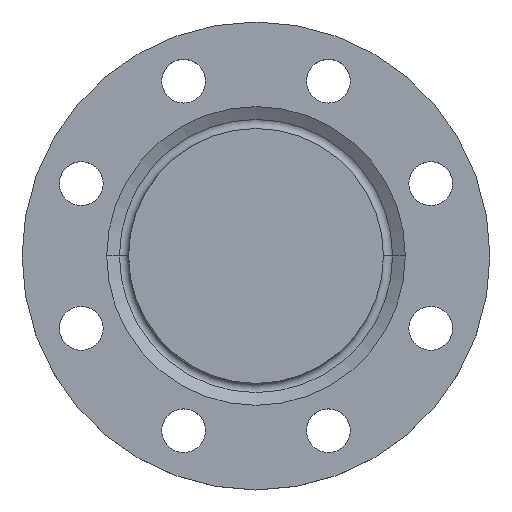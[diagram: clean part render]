
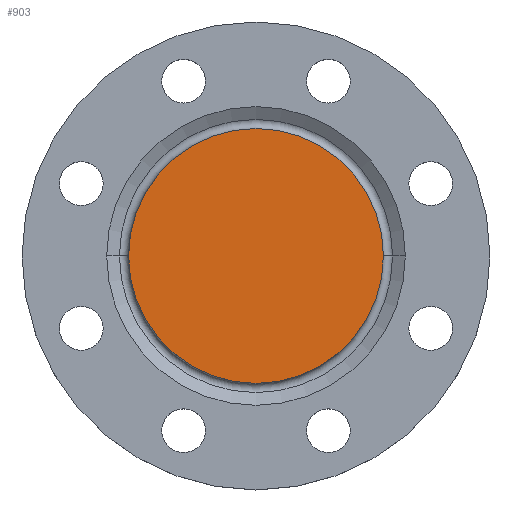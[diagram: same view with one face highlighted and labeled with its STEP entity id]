
A CAD part, top view. The second image highlights one B-rep face of the part: STEP entity #903.
In plain terms, the highlighted planar face has unit normal (0, 0, 1).
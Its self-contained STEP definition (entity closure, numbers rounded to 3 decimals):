
#28 = DIRECTION ( 'NONE',  ( 0., 0., 1. ) ) ;
#117 = FACE_OUTER_BOUND ( 'NONE', #201, .T. ) ;
#124 = CIRCLE ( 'NONE', #150, 64. ) ;
#136 = DIRECTION ( 'NONE',  ( 0., 0., -1. ) ) ;
#150 = AXIS2_PLACEMENT_3D ( 'NONE', #846, #136, #456 ) ;
#201 = EDGE_LOOP ( 'NONE', ( #724, #324 ) ) ;
#220 = VERTEX_POINT ( 'NONE', #1044 ) ;
#324 = ORIENTED_EDGE ( 'NONE', *, *, #457, .F. ) ;
#365 = CARTESIAN_POINT ( 'NONE',  ( 0., 0., 0. ) ) ;
#368 = DIRECTION ( 'NONE',  ( 1., 0., 0. ) ) ;
#408 = AXIS2_PLACEMENT_3D ( 'NONE', #365, #692, #993 ) ;
#442 = PLANE ( 'NONE',  #548 ) ;
#456 = DIRECTION ( 'NONE',  ( -1., 0., 0. ) ) ;
#457 = EDGE_CURVE ( 'NONE', #220, #1030, #981, .T. ) ;
#548 = AXIS2_PLACEMENT_3D ( 'NONE', #764, #28, #368 ) ;
#692 = DIRECTION ( 'NONE',  ( 0., 0., -1. ) ) ;
#724 = ORIENTED_EDGE ( 'NONE', *, *, #958, .F. ) ;
#732 = CARTESIAN_POINT ( 'NONE',  ( -64., 0., 0. ) ) ;
#764 = CARTESIAN_POINT ( 'NONE',  ( 0., 0., 0. ) ) ;
#846 = CARTESIAN_POINT ( 'NONE',  ( 0., 0., 0. ) ) ;
#903 = ADVANCED_FACE ( 'NONE', ( #117 ), #442, .T. ) ;
#958 = EDGE_CURVE ( 'NONE', #1030, #220, #124, .T. ) ;
#981 = CIRCLE ( 'NONE', #408, 64. ) ;
#993 = DIRECTION ( 'NONE',  ( -1., 0., 0. ) ) ;
#1030 = VERTEX_POINT ( 'NONE', #732 ) ;
#1044 = CARTESIAN_POINT ( 'NONE',  ( 64., 0., 0. ) ) ;
